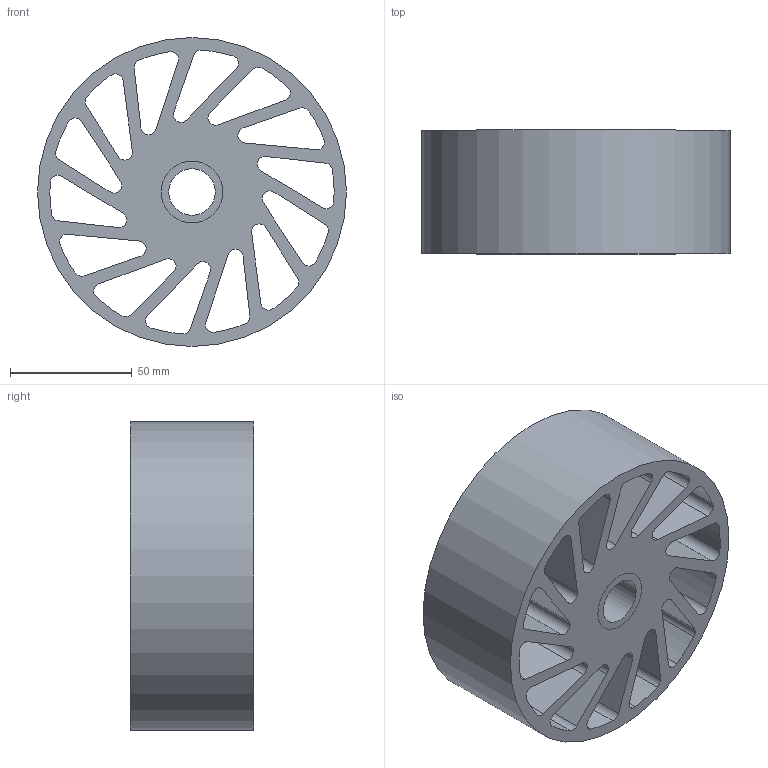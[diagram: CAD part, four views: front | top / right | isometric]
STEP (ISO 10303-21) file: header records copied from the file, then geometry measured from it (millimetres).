
FILE_DESCRIPTION(/* description */ (''),/* implementation_level */ '2;1');
FILE_NAME(/* name */ 'C:\Users\Owner\Desktop\Meridian Stuff\Oilite\NCWOB-520-XXX.stp',/* time_stamp */ '2023-05-22T17:10:36-05:00',/* author */ ('ASG'),/* organization */ ('Meridian Laboratory '),/* preprocessor_version */ 'ST-DEVELOPER v19',/* originating_system */ 'Autodesk Inventor 2023',/* authorisation */ '');
FILE_SCHEMA (('AUTOMOTIVE_DESIGN { 1 0 10303 214 3 1 1 }'));
Length unit declared in the file: inch
Products named in the file (1): NCWOB-440-XXX
Bounding box: 127 x 50.8 x 127 mm (x, y, z)
Volume: 346277.9 mm3; surface area: 106559.5 mm2
Topology: 2 solids, 2 shells, 92 faces, 264 edges, 176 vertices
Faces by surface type: cylinder 60, plane 32
Full cylindrical faces by diameter (mm): 19.101 x1, 25.4 x2, 127 x1
Entity records: 3285 total; most frequent: DIRECTION 570, CARTESIAN_POINT 533, ORIENTED_EDGE 528, EDGE_CURVE 264, AXIS2_PLACEMENT_3D 213, VERTEX_POINT 176, LINE 144, VECTOR 144
